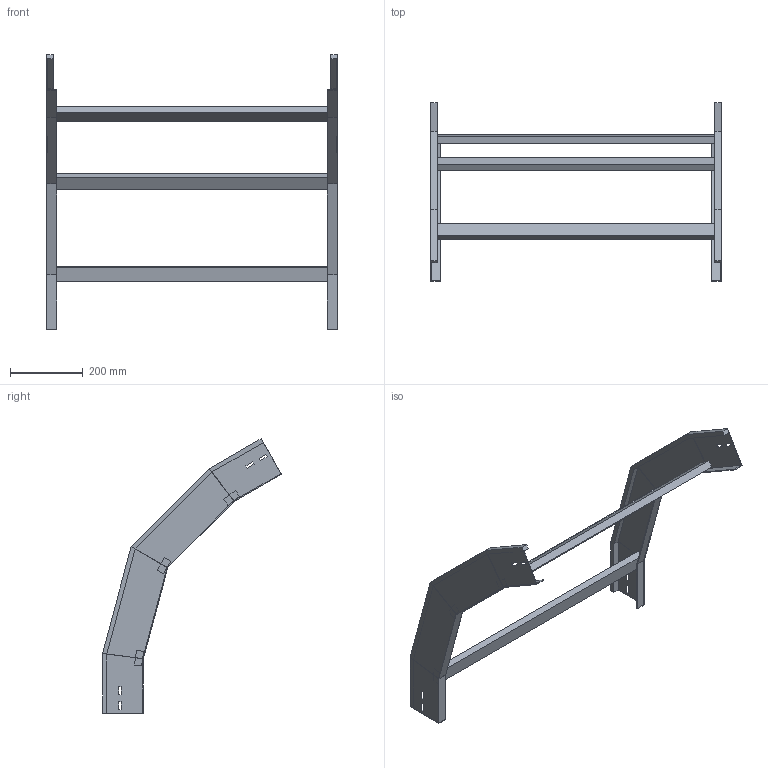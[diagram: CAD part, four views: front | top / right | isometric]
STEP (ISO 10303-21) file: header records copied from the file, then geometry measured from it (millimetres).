
FILE_DESCRIPTION (( 'STEP AP214' ), '1' );
FILE_NAME ('41B5J800.step', '2025-02-21T14:58:01', ( '' ), ( '' ), 'SwSTEP 2.0', 'SolidWorks 2023', '' );
FILE_SCHEMA (( 'AUTOMOTIVE_DESIGN' ));
Length unit declared in the file: millimetre
Products named in the file (3): TRAVERSINO_800; LONGH.DISCESA_60°_H112.5_R500; 41B5J800
Assembly tree (5 placements, depth 2):
  41B5J800
    LONGH.DISCESA_60°_H112.5_R500  x2
    TRAVERSINO_800  x3
Bounding box: 800 x 492.58 x 755.74 mm (x, y, z)
Volume: 2766281.3 mm3; surface area: 837657.2 mm2
Topology: 5 solids, 5 shells, 118 faces, 276 edges, 168 vertices
Faces by surface type: plane 118
Entity records: 1672 total; most frequent: CARTESIAN_POINT 276, ORIENTED_EDGE 264, DIRECTION 260, VECTOR 132, EDGE_CURVE 132, LINE 132, VERTEX_POINT 80, EDGE_LOOP 64
